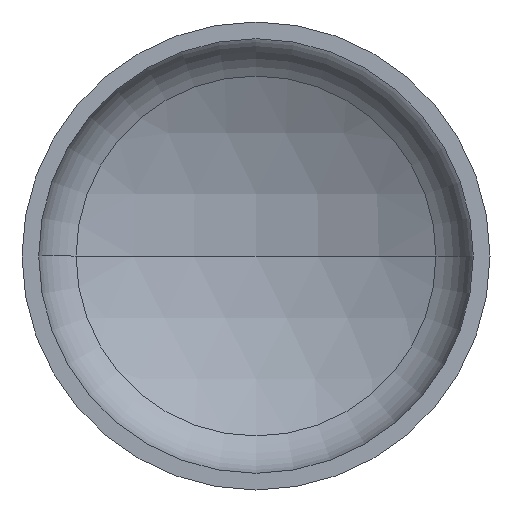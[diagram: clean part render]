
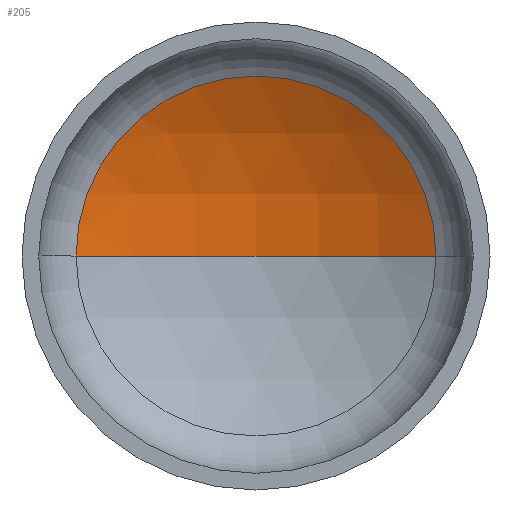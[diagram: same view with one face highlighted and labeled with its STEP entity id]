
A CAD part, front view. The second image highlights one B-rep face of the part: STEP entity #205.
In plain terms, the highlighted spherical face has radius 2240 mm.
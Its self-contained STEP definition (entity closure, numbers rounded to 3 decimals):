
#6 = VERTEX_POINT ( 'NONE', #315 ) ;
#13 = AXIS2_PLACEMENT_3D ( 'NONE', #243, #401, #265 ) ;
#15 = AXIS2_PLACEMENT_3D ( 'NONE', #84, #287, #146 ) ;
#22 = AXIS2_PLACEMENT_3D ( 'NONE', #337, #191, #359 ) ;
#34 = AXIS2_PLACEMENT_3D ( 'NONE', #335, #311, #211 ) ;
#84 = CARTESIAN_POINT ( 'NONE',  ( 0., 477.069, 0. ) ) ;
#103 = CIRCLE ( 'NONE', #22, 2240. ) ;
#105 = ORIENTED_EDGE ( 'NONE', *, *, #326, .T. ) ;
#116 = EDGE_LOOP ( 'NONE', ( #134, #123, #105 ) ) ;
#123 = ORIENTED_EDGE ( 'NONE', *, *, #328, .T. ) ;
#134 = ORIENTED_EDGE ( 'NONE', *, *, #329, .F. ) ;
#146 = DIRECTION ( 'NONE',  ( 1., 0., 0. ) ) ;
#181 = CIRCLE ( 'NONE', #15, 1076.685 ) ;
#191 = DIRECTION ( 'NONE',  ( 0., 0., -1. ) ) ;
#205 = ADVANCED_FACE ( 'NONE', ( #392 ), #387, .F. ) ;
#211 = DIRECTION ( 'NONE',  ( -1., 0., 0. ) ) ;
#243 = CARTESIAN_POINT ( 'NONE',  ( 0., -1487.199, 0. ) ) ;
#265 = DIRECTION ( 'NONE',  ( 1., 0., 0. ) ) ;
#283 = CARTESIAN_POINT ( 'NONE',  ( 1076.685, 477.069, 0. ) ) ;
#287 = DIRECTION ( 'NONE',  ( 0., -1., 0. ) ) ;
#303 = CIRCLE ( 'NONE', #13, 2240. ) ;
#304 = VERTEX_POINT ( 'NONE', #283 ) ;
#311 = DIRECTION ( 'NONE',  ( 0., 0., -1. ) ) ;
#315 = CARTESIAN_POINT ( 'NONE',  ( -1076.685, 477.069, 0. ) ) ;
#326 = EDGE_CURVE ( 'NONE', #304, #6, #181, .T. ) ;
#328 = EDGE_CURVE ( 'NONE', #370, #304, #103, .T. ) ;
#329 = EDGE_CURVE ( 'NONE', #370, #6, #303, .T. ) ;
#335 = CARTESIAN_POINT ( 'NONE',  ( 0., -1487.199, 0. ) ) ;
#337 = CARTESIAN_POINT ( 'NONE',  ( 0., -1487.199, 0. ) ) ;
#339 = CARTESIAN_POINT ( 'NONE',  ( 0., 752.801, 0. ) ) ;
#359 = DIRECTION ( 'NONE',  ( -1., 0., 0. ) ) ;
#370 = VERTEX_POINT ( 'NONE', #339 ) ;
#387 = SPHERICAL_SURFACE ( 'NONE', #34, 2240. ) ;
#392 = FACE_OUTER_BOUND ( 'NONE', #116, .T. ) ;
#401 = DIRECTION ( 'NONE',  ( 0., 0., 1. ) ) ;
